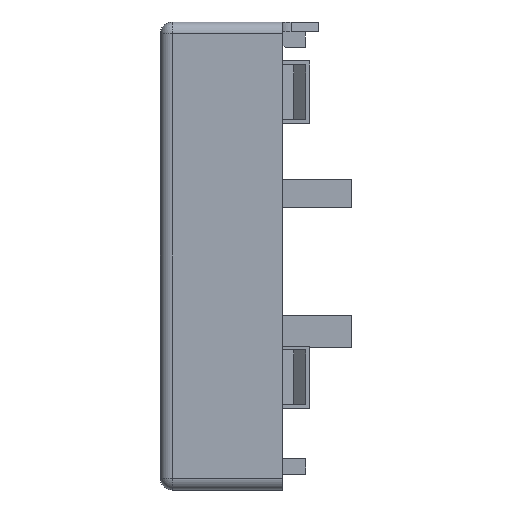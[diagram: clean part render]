
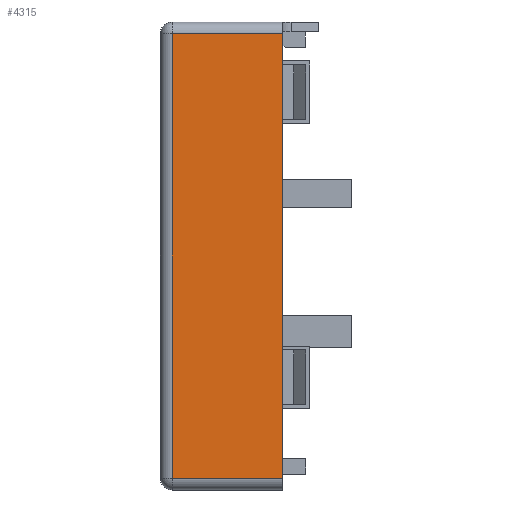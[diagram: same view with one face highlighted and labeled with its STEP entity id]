
A CAD part, left-side view. The second image highlights one B-rep face of the part: STEP entity #4315.
In plain terms, the highlighted planar face has unit normal (-1, 0, 0).
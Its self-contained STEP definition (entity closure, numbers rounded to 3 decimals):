
#179=PLANE('',#4501);
#395=FACE_OUTER_BOUND('',#638,.T.);
#638=EDGE_LOOP('',(#3604,#3605,#3606,#3607));
#1104=LINE('',#7362,#1551);
#1109=LINE('',#7375,#1556);
#1111=LINE('',#7383,#1558);
#1112=LINE('',#7385,#1559);
#1551=VECTOR('',#5073,10.);
#1556=VECTOR('',#5086,10.);
#1558=VECTOR('',#5094,10.);
#1559=VECTOR('',#5097,10.);
#2099=VERTEX_POINT('',#7359);
#2100=VERTEX_POINT('',#7361);
#2104=VERTEX_POINT('',#7373);
#2107=VERTEX_POINT('',#7381);
#2656=EDGE_CURVE('',#2099,#2100,#1104,.T.);
#2663=EDGE_CURVE('',#2104,#2099,#1109,.T.);
#2667=EDGE_CURVE('',#2107,#2104,#1111,.T.);
#2668=EDGE_CURVE('',#2100,#2107,#1112,.T.);
#3604=ORIENTED_EDGE('',*,*,#2663,.F.);
#3605=ORIENTED_EDGE('',*,*,#2667,.F.);
#3606=ORIENTED_EDGE('',*,*,#2668,.F.);
#3607=ORIENTED_EDGE('',*,*,#2656,.F.);
#4315=ADVANCED_FACE('',(#395),#179,.T.);
#4501=AXIS2_PLACEMENT_3D('',#7393,#5109,#5110);
#5073=DIRECTION('',(0.,0.,-1.));
#5086=DIRECTION('',(0.,-1.,0.));
#5094=DIRECTION('',(0.,0.,1.));
#5097=DIRECTION('',(0.,1.,0.));
#5109=DIRECTION('center_axis',(-1.,0.,0.));
#5110=DIRECTION('ref_axis',(0.,0.,1.));
#7359=CARTESIAN_POINT('',(-115.7,7.284,215.95));
#7361=CARTESIAN_POINT('',(-115.7,7.284,159.3));
#7362=CARTESIAN_POINT('',(-115.7,7.284,172.747));
#7373=CARTESIAN_POINT('',(-115.7,21.31,215.95));
#7375=CARTESIAN_POINT('',(-115.7,4.355,215.95));
#7381=CARTESIAN_POINT('',(-115.7,21.31,159.3));
#7383=CARTESIAN_POINT('',(-115.7,21.31,172.713));
#7385=CARTESIAN_POINT('',(-115.7,-6.,159.3));
#7393=CARTESIAN_POINT('Origin',(-115.7,-6.,157.8));
